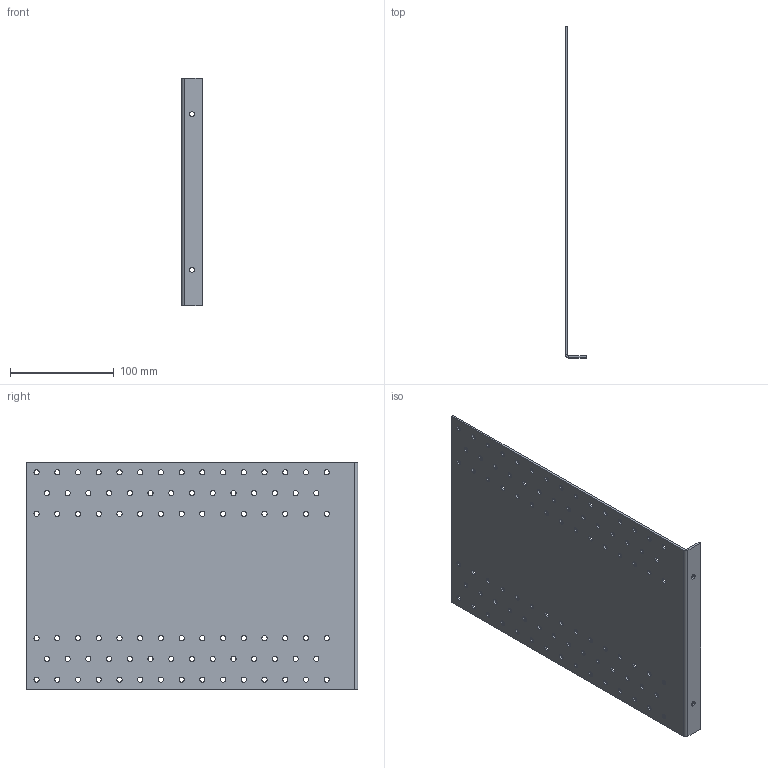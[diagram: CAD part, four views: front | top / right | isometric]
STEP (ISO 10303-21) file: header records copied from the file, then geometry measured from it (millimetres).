
FILE_DESCRIPTION (( 'STEP AP203' ), '1' );
FILE_NAME ('232.STEP', '2020-04-17T13:03:24', ( '' ), ( '' ), 'SwSTEP 2.0', 'SolidWorks 2013', '' );
FILE_SCHEMA (( 'CONFIG_CONTROL_DESIGN' ));
Length unit declared in the file: millimetre
Products named in the file (1): 232
Bounding box: 20 x 320 x 220 mm (x, y, z)
Volume: 144858.6 mm3; surface area: 149915.1 mm2
Topology: 1 solids, 1 shells, 194 faces, 568 edges, 376 vertices
Faces by surface type: cylinder 182, plane 12
Entity records: 7089 total; most frequent: DIRECTION 1322, CARTESIAN_POINT 1139, ORIENTED_EDGE 1136, EDGE_CURVE 568, AXIS2_PLACEMENT_3D 559, VERTEX_POINT 376, EDGE_LOOP 374, CIRCLE 364
